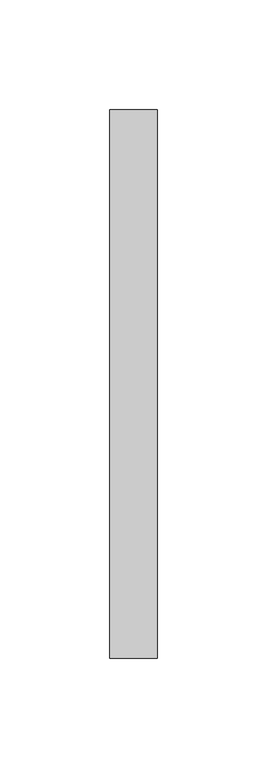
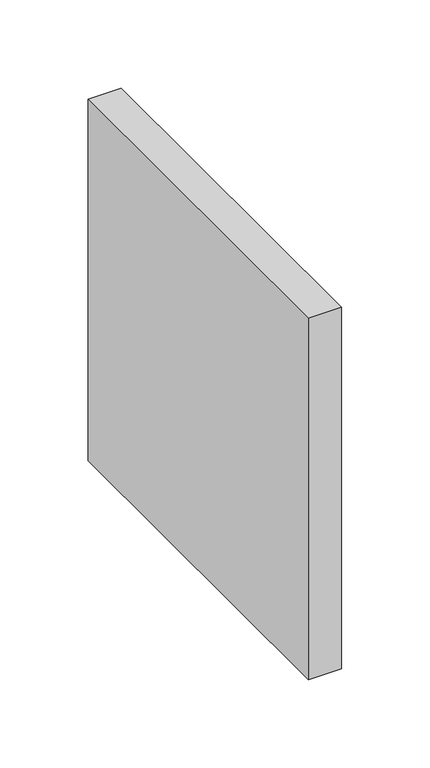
"""IFC4 building model written with IfcOpenShell, lengths in millimetres: duct fitting geometry, MEP_15.03 Injerto Conducte : Mínimo."""

from ifc_helpers import new_model, si_unit, frame, origin, place, context, project, spatial, polyline, outline, extrude, source, transform, mapped, element, save


def duct_fitting_1136bede(model_context):
    return source(origin(), model_context, "Body", "SweptSolid", [
        extrude(outline(polyline([(-6.333591, -125.0), (-6.333591, 125.0), (15.237591, 125.0), (15.237591, -125.0), (-6.333591, -125.0)])), frame((0.0, 0.0, -125.0), z_axis=(0.0, 0.0, 1.0), x_axis=(1.0, 0.0, 0.0)), (0.0, 0.0, 1.0), 250.0),
    ])


if __name__ == "__main__":
    model = new_model("IFC4")
    model_context = context("Model", 3, world=origin())
    ifc_project = project(units=[si_unit("LENGTHUNIT", "METRE", prefix="MILLI")], contexts=[model_context])
    site = spatial("IfcSite", under=ifc_project)
    building = spatial("IfcBuilding", under=site)
    placement = place(None, origin())
    duct_fitting_shape = duct_fitting_1136bede(model_context)
    element("IfcDuctFitting", 1, ObjectType="MEP_15.03 Injerto Conducte : Mínimo", at=placement, inside=building, context=model_context, shape_type="MappedRepresentation", body=[
        mapped(duct_fitting_shape, transform((0.0, 0.0, 0.0), x_axis=(1.0, 0.0, 0.0), y_axis=(0.0, 1.0, 0.0), z_axis=(0.0, 0.0, 1.0))),
    ])
    save(model, "model.ifc")
